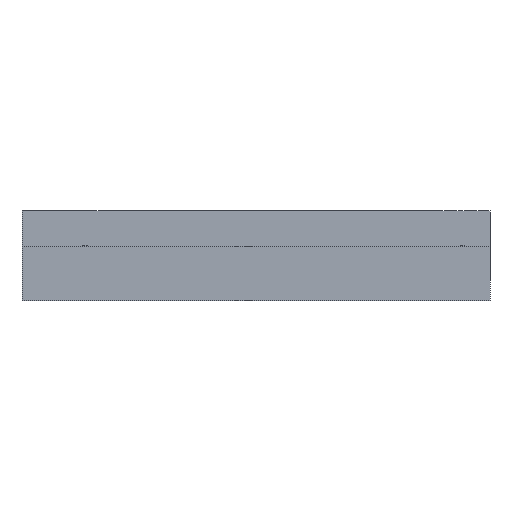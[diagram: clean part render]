
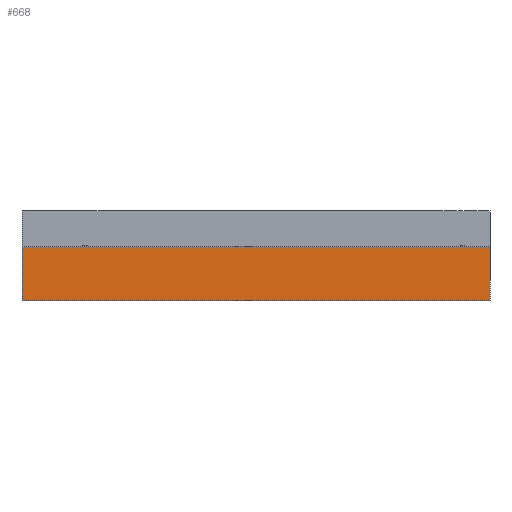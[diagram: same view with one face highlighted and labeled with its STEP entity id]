
A CAD part, front view. The second image highlights one B-rep face of the part: STEP entity #668.
In plain terms, the highlighted planar face has unit normal (0, -1, 0).
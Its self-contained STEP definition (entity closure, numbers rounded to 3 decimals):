
#32 = PLANE('',#33);
#33 = AXIS2_PLACEMENT_3D('',#34,#35,#36);
#34 = CARTESIAN_POINT('',(-33.,-33.,3.));
#35 = DIRECTION('',(0.,0.,1.));
#36 = DIRECTION('',(1.,0.,-0.));
#57 = VERTEX_POINT('',#58);
#58 = CARTESIAN_POINT('',(-14.,-16.,3.));
#71 = PLANE('',#72);
#72 = AXIS2_PLACEMENT_3D('',#73,#74,#75);
#73 = CARTESIAN_POINT('',(-14.,-16.,0.));
#74 = DIRECTION('',(1.,0.,-0.));
#75 = DIRECTION('',(0.,0.,1.));
#83 = EDGE_CURVE('',#84,#57,#86,.T.);
#84 = VERTEX_POINT('',#85);
#85 = CARTESIAN_POINT('',(12.,-16.,3.));
#86 = SURFACE_CURVE('',#87,(#91,#97),.PCURVE_S1.);
#87 = LINE('',#88,#89);
#88 = CARTESIAN_POINT('',(-23.5,-16.,3.));
#89 = VECTOR('',#90,1.);
#90 = DIRECTION('',(-1.,-0.,0.));
#91 = PCURVE('',#32,#92);
#92 = DEFINITIONAL_REPRESENTATION('',(#93),#96);
#93 = B_SPLINE_CURVE_WITH_KNOTS('',1,(#94,#95),.UNSPECIFIED.,.F.,.F.,(2,
    2),(-35.5,-9.5),.PIECEWISE_BEZIER_KNOTS.);
#94 = CARTESIAN_POINT('',(45.,17.));
#95 = CARTESIAN_POINT('',(19.,17.));
#96 = ( GEOMETRIC_REPRESENTATION_CONTEXT(2) 
PARAMETRIC_REPRESENTATION_CONTEXT() REPRESENTATION_CONTEXT('2D SPACE',''
  ) );
#97 = PCURVE('',#98,#103);
#98 = PLANE('',#99);
#99 = AXIS2_PLACEMENT_3D('',#100,#101,#102);
#100 = CARTESIAN_POINT('',(-14.,-16.,0.));
#101 = DIRECTION('',(-0.,1.,0.));
#102 = DIRECTION('',(0.,0.,1.));
#103 = DEFINITIONAL_REPRESENTATION('',(#104),#107);
#104 = B_SPLINE_CURVE_WITH_KNOTS('',1,(#105,#106),.UNSPECIFIED.,.F.,.F.,
  (2,2),(-35.5,-9.5),.PIECEWISE_BEZIER_KNOTS.);
#105 = CARTESIAN_POINT('',(3.,26.));
#106 = CARTESIAN_POINT('',(3.,0.));
#107 = ( GEOMETRIC_REPRESENTATION_CONTEXT(2) 
PARAMETRIC_REPRESENTATION_CONTEXT() REPRESENTATION_CONTEXT('2D SPACE',''
  ) );
#122 = PLANE('',#123);
#123 = AXIS2_PLACEMENT_3D('',#124,#125,#126);
#124 = CARTESIAN_POINT('',(12.,-16.,0.));
#125 = DIRECTION('',(1.,0.,-0.));
#126 = DIRECTION('',(0.,0.,1.));
#210 = EDGE_CURVE('',#211,#84,#213,.T.);
#211 = VERTEX_POINT('',#212);
#212 = CARTESIAN_POINT('',(12.,-16.,0.));
#213 = SURFACE_CURVE('',#214,(#218,#225),.PCURVE_S1.);
#214 = LINE('',#215,#216);
#215 = CARTESIAN_POINT('',(12.,-16.,0.));
#216 = VECTOR('',#217,1.);
#217 = DIRECTION('',(0.,0.,1.));
#218 = PCURVE('',#122,#219);
#219 = DEFINITIONAL_REPRESENTATION('',(#220),#224);
#220 = LINE('',#221,#222);
#221 = CARTESIAN_POINT('',(0.,0.));
#222 = VECTOR('',#223,1.);
#223 = DIRECTION('',(1.,0.));
#224 = ( GEOMETRIC_REPRESENTATION_CONTEXT(2) 
PARAMETRIC_REPRESENTATION_CONTEXT() REPRESENTATION_CONTEXT('2D SPACE',''
  ) );
#225 = PCURVE('',#98,#226);
#226 = DEFINITIONAL_REPRESENTATION('',(#227),#231);
#227 = LINE('',#228,#229);
#228 = CARTESIAN_POINT('',(0.,26.));
#229 = VECTOR('',#230,1.);
#230 = DIRECTION('',(1.,0.));
#231 = ( GEOMETRIC_REPRESENTATION_CONTEXT(2) 
PARAMETRIC_REPRESENTATION_CONTEXT() REPRESENTATION_CONTEXT('2D SPACE',''
  ) );
#249 = PLANE('',#250);
#250 = AXIS2_PLACEMENT_3D('',#251,#252,#253);
#251 = CARTESIAN_POINT('',(-33.,-33.,0.));
#252 = DIRECTION('',(0.,0.,1.));
#253 = DIRECTION('',(1.,0.,-0.));
#668 = ADVANCED_FACE('',(#669),#98,.F.);
#669 = FACE_BOUND('',#670,.F.);
#670 = EDGE_LOOP('',(#671,#672,#695,#716));
#671 = ORIENTED_EDGE('',*,*,#210,.F.);
#672 = ORIENTED_EDGE('',*,*,#673,.F.);
#673 = EDGE_CURVE('',#674,#211,#676,.T.);
#674 = VERTEX_POINT('',#675);
#675 = CARTESIAN_POINT('',(-14.,-16.,0.));
#676 = SURFACE_CURVE('',#677,(#681,#688),.PCURVE_S1.);
#677 = LINE('',#678,#679);
#678 = CARTESIAN_POINT('',(-14.,-16.,0.));
#679 = VECTOR('',#680,1.);
#680 = DIRECTION('',(1.,0.,-0.));
#681 = PCURVE('',#98,#682);
#682 = DEFINITIONAL_REPRESENTATION('',(#683),#687);
#683 = LINE('',#684,#685);
#684 = CARTESIAN_POINT('',(0.,0.));
#685 = VECTOR('',#686,1.);
#686 = DIRECTION('',(0.,1.));
#687 = ( GEOMETRIC_REPRESENTATION_CONTEXT(2) 
PARAMETRIC_REPRESENTATION_CONTEXT() REPRESENTATION_CONTEXT('2D SPACE',''
  ) );
#688 = PCURVE('',#249,#689);
#689 = DEFINITIONAL_REPRESENTATION('',(#690),#694);
#690 = LINE('',#691,#692);
#691 = CARTESIAN_POINT('',(19.,17.));
#692 = VECTOR('',#693,1.);
#693 = DIRECTION('',(1.,0.));
#694 = ( GEOMETRIC_REPRESENTATION_CONTEXT(2) 
PARAMETRIC_REPRESENTATION_CONTEXT() REPRESENTATION_CONTEXT('2D SPACE',''
  ) );
#695 = ORIENTED_EDGE('',*,*,#696,.T.);
#696 = EDGE_CURVE('',#674,#57,#697,.T.);
#697 = SURFACE_CURVE('',#698,(#702,#709),.PCURVE_S1.);
#698 = LINE('',#699,#700);
#699 = CARTESIAN_POINT('',(-14.,-16.,0.));
#700 = VECTOR('',#701,1.);
#701 = DIRECTION('',(0.,0.,1.));
#702 = PCURVE('',#98,#703);
#703 = DEFINITIONAL_REPRESENTATION('',(#704),#708);
#704 = LINE('',#705,#706);
#705 = CARTESIAN_POINT('',(0.,0.));
#706 = VECTOR('',#707,1.);
#707 = DIRECTION('',(1.,0.));
#708 = ( GEOMETRIC_REPRESENTATION_CONTEXT(2) 
PARAMETRIC_REPRESENTATION_CONTEXT() REPRESENTATION_CONTEXT('2D SPACE',''
  ) );
#709 = PCURVE('',#71,#710);
#710 = DEFINITIONAL_REPRESENTATION('',(#711),#715);
#711 = LINE('',#712,#713);
#712 = CARTESIAN_POINT('',(0.,0.));
#713 = VECTOR('',#714,1.);
#714 = DIRECTION('',(1.,0.));
#715 = ( GEOMETRIC_REPRESENTATION_CONTEXT(2) 
PARAMETRIC_REPRESENTATION_CONTEXT() REPRESENTATION_CONTEXT('2D SPACE',''
  ) );
#716 = ORIENTED_EDGE('',*,*,#83,.F.);
